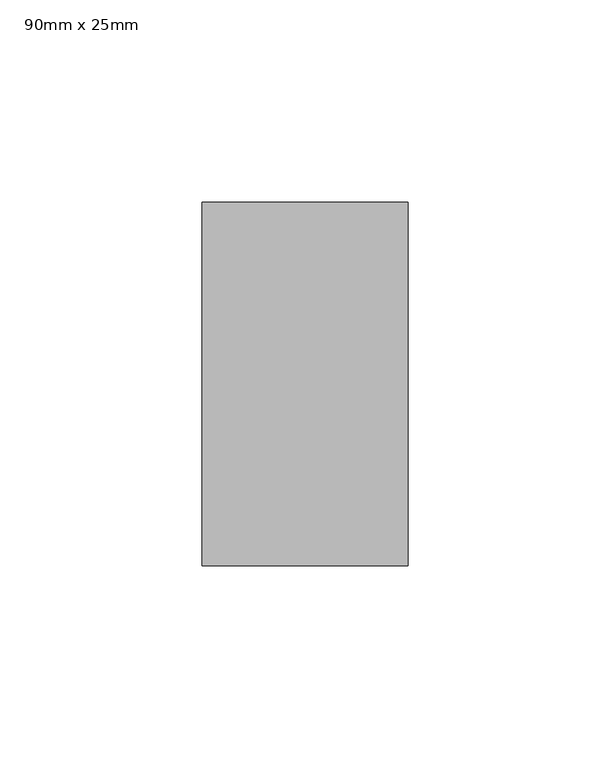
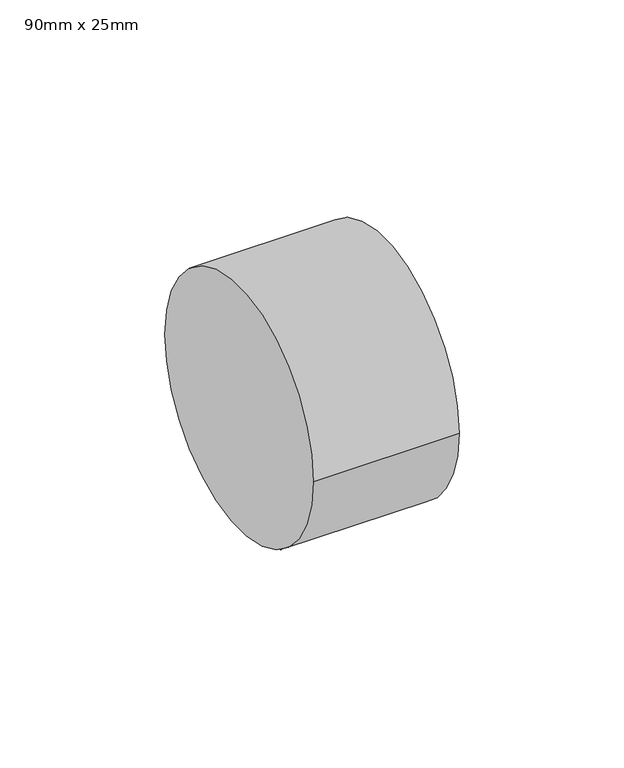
"""IFC4 building model written with IfcOpenShell, lengths in millimetres: pipe fitting geometry, PipeFitting_HTA_CPVC_ConcentricReducingBushes : 90mm x 25mm."""

import ifcopenshell
import ifcopenshell.guid

model = None  # the IFC model being written
_history = None  # IfcOwnerHistory: only IFC2X3 demands one
_inside = {}  # id of a spatial element -> (the spatial element, [elements in it])
_under = {}  # id of a project, library or spatial element -> (it, [spatial elements below it])
_declared = {}  # id of a project -> (the project, [libraries it declares])
_typed = {}  # id of a type object -> (the type object, [elements of that type])
_made_of = {}  # id of a material, layer set ... -> (it, [elements and type objects made of it])


def new_model(schema):
    """Start an empty IFC model of exactly this schema.

    Asked for "IFC4X3", IfcOpenShell would pick the latest addendum, in which some entities
    have other attributes; the version numbers below select the first issue.
    IFC2X3 requires an IfcOwnerHistory on every rooted entity: one is made here for all.
    """
    global model, _history
    if schema == "IFC4X3":
        model = ifcopenshell.file(schema_version=(4, 3, 0, 0))
    else:
        model = ifcopenshell.file(schema=schema)
    _inside.clear()
    _under.clear()
    _declared.clear()
    _typed.clear()
    _made_of.clear()
    _history = None
    if model.schema == "IFC2X3":
        org = make("IfcOrganization", Name="unknown")
        user = make(
            "IfcPersonAndOrganization",
            ThePerson=make("IfcPerson", FamilyName="unknown"),
            TheOrganization=org,
        )
        app = make(
            "IfcApplication",
            ApplicationDeveloper=org,
            Version="unknown",
            ApplicationFullName="unknown",
            ApplicationIdentifier="unknown",
        )
        _history = make(
            "IfcOwnerHistory",
            OwningUser=user,
            OwningApplication=app,
            ChangeAction="ADDED",
            CreationDate=0,
        )
    return model


def make(cls, **values):
    """One entity of the class cls with the attributes given. An attribute that is None is left unset."""
    return model.create_entity(
        cls, **{name: value for name, value in values.items() if value is not None}
    )


def rooted(cls, **values):
    """An entity with a GlobalId (a new one), such as an element, a storey or a relation."""
    return make(cls, GlobalId=ifcopenshell.guid.new(), OwnerHistory=_history, **values)


def si_unit(unit_type, name, prefix=None):
    """IfcSIUnit, for example si_unit("LENGTHUNIT", "METRE", prefix="MILLI")."""
    return make("IfcSIUnit", UnitType=unit_type, Prefix=prefix, Name=name)


def assignment(units):
    """IfcUnitAssignment: the units of a project."""
    return None if units is None else make("IfcUnitAssignment", Units=units)


def point(xyz):
    """IfcCartesianPoint."""
    return None if xyz is None else make("IfcCartesianPoint", Coordinates=xyz)


def direction(xyz):
    """IfcDirection."""
    return None if xyz is None else make("IfcDirection", DirectionRatios=xyz)


def frame(location, z_axis=None, x_axis=None):
    """IfcAxis2Placement3D, a coordinate frame: its origin and axes. An axis left out is left unset."""
    return make(
        "IfcAxis2Placement3D",
        Location=point(location),
        Axis=direction(z_axis),
        RefDirection=direction(x_axis),
    )


def frame_2d(location, x_axis=None):
    """IfcAxis2Placement2D, a coordinate frame in the plane: its origin and x axis."""
    return make(
        "IfcAxis2Placement2D", Location=point(location), RefDirection=direction(x_axis)
    )


def origin():
    """The frame at (0, 0, 0) with its axes left unset."""
    return frame((0.0, 0.0, 0.0))


def origin_2d():
    """The frame at (0, 0) in the plane with its x axis left unset."""
    return frame_2d((0.0, 0.0))


def place(relative_to, where):
    """IfcLocalPlacement: puts the frame where relative to a parent placement (None: the world)."""
    return make(
        "IfcLocalPlacement", PlacementRelTo=relative_to, RelativePlacement=where
    )


def context(
    kind, dimensions, precision=None, world=None, true_north=None, identifier=None
):
    """IfcGeometricRepresentationContext, for example the 3D "Model" context."""
    return make(
        "IfcGeometricRepresentationContext",
        ContextIdentifier=identifier,
        ContextType=kind,
        CoordinateSpaceDimension=dimensions,
        Precision=precision,
        WorldCoordinateSystem=world,
        TrueNorth=true_north,
    )


def project(units=None, contexts=None):
    """IfcProject with its units and contexts."""
    return rooted(
        "IfcProject",
        Name="project",
        RepresentationContexts=contexts,
        UnitsInContext=assignment(units),
    )


def spatial(cls, under=None, at=None, **own):
    """A site, building, storey or space (cls), placed at a placement, below another one or the project."""
    s = rooted(cls, ObjectPlacement=at, **own)
    if under is not None:
        _under.setdefault(under.id(), (under, []))[1].append(s)
    return s


def circle_curve(where, radius):
    """IfcCircle in the frame where."""
    return make("IfcCircle", Position=where, Radius=radius)


def trimmed(basis, trim1, trim2, sense, master):
    """IfcTrimmedCurve: the piece of a basis curve between two trims."""
    return make(
        "IfcTrimmedCurve",
        BasisCurve=basis,
        Trim1=trim1,
        Trim2=trim2,
        SenseAgreement=sense,
        MasterRepresentation=master,
    )


def segment(curve, same_sense, transition):
    """IfcCompositeCurveSegment."""
    return make(
        "IfcCompositeCurveSegment",
        Transition=transition,
        SameSense=same_sense,
        ParentCurve=curve,
    )


def composite_curve(segments, self_intersect=None):
    """IfcCompositeCurve: segments joined end to end."""
    return make("IfcCompositeCurve", Segments=segments, SelfIntersect=self_intersect)


def outline(outer, holes=None, kind="AREA"):
    """IfcArbitraryClosedProfileDef: a profile drawn as a closed curve; with holes, ...WithVoids."""
    if holes is None:
        return make("IfcArbitraryClosedProfileDef", ProfileType=kind, OuterCurve=outer)
    return make(
        "IfcArbitraryProfileDefWithVoids",
        ProfileType=kind,
        OuterCurve=outer,
        InnerCurves=holes,
    )


def extrude(swept, where, along, depth):
    """IfcExtrudedAreaSolid: the profile swept, set in the frame where, extruded along a direction by depth."""
    return make(
        "IfcExtrudedAreaSolid",
        SweptArea=swept,
        Position=where,
        ExtrudedDirection=direction(along),
        Depth=depth,
    )


def shape(context_of_items, identifier, shape_type, items):
    """IfcShapeRepresentation: the items that make up one representation, for example the "Body"."""
    return make(
        "IfcShapeRepresentation",
        ContextOfItems=context_of_items,
        RepresentationIdentifier=identifier,
        RepresentationType=shape_type,
        Items=items,
    )


def source(mapping_origin, context_of_items, identifier, shape_type, items):
    """IfcRepresentationMap: a shape defined once, which mapped items show again and again."""
    return make(
        "IfcRepresentationMap",
        MappingOrigin=mapping_origin,
        MappedRepresentation=shape(context_of_items, identifier, shape_type, items),
    )


def transform(
    local_origin,
    x_axis=None,
    y_axis=None,
    z_axis=None,
    scale=None,
    scale2=None,
    scale3=None,
    uniform=True,
):
    """IfcCartesianTransformationOperator3D, or its non-uniform kind. x_axis, y_axis, z_axis: its Axis1, 2, 3."""
    if uniform:
        return make(
            "IfcCartesianTransformationOperator3D",
            Axis1=direction(x_axis),
            Axis2=direction(y_axis),
            LocalOrigin=point(local_origin),
            Scale=scale,
            Axis3=direction(z_axis),
        )
    return make(
        "IfcCartesianTransformationOperator3DnonUniform",
        Axis1=direction(x_axis),
        Axis2=direction(y_axis),
        LocalOrigin=point(local_origin),
        Scale=scale,
        Axis3=direction(z_axis),
        Scale2=scale2,
        Scale3=scale3,
    )


def mapped(mapping_source, mapping_target):
    """IfcMappedItem: shows the shape of a source again, moved by a transform."""
    return make(
        "IfcMappedItem", MappingSource=mapping_source, MappingTarget=mapping_target
    )


def made_of(thing, what):
    """Note that an element or type object is made of a material, layer set ...; save() writes the relation."""
    if what is not None:
        _made_of.setdefault(what.id(), (what, []))[1].append(thing)
    return thing


def element(
    cls,
    number,
    at=None,
    inside=None,
    cuts=None,
    type_object=None,
    material=None,
    context=None,
    identifier="Body",
    shape_type=None,
    held_by="IfcProductDefinitionShape",
    body=None,
    shapes=None,
    **own,
):
    """One element of the class cls, such as IfcWall. Its Tag is "e" and its number.

    at: its placement. inside: the storey or other place that contains it. cuts: it is an
    opening in that element (IfcRelVoidsElement). A single representation is given by context,
    identifier, shape_type and body (its items); several are given by shapes. held_by: the class
    of the entity that holds the representations. save() writes the other relations.
    """
    e = rooted(cls, Tag="e%d" % number, ObjectPlacement=at, **own)
    if body is not None:
        shapes = [shape(context, identifier, shape_type, body)]
    if shapes is not None:
        e.Representation = make(held_by, Representations=shapes)
    if inside is not None:
        _inside.setdefault(inside.id(), (inside, []))[1].append(e)
    if cuts is not None:
        rooted(
            "IfcRelVoidsElement", RelatingBuildingElement=cuts, RelatedOpeningElement=e
        )
    if type_object is not None:
        _typed.setdefault(type_object.id(), (type_object, []))[1].append(e)
    return made_of(e, material)


def aggregate(whole, parts):
    """IfcRelAggregates: a whole, such as a stair, and the parts it consists of."""
    return rooted("IfcRelAggregates", RelatingObject=whole, RelatedObjects=parts)


def save(model, path):
    """Write the relations noted so far, then the file.

    IfcRelAggregates (storeys below a building ...), IfcRelContainedInSpatialStructure (elements
    in a storey), IfcRelDefinesByType, IfcRelAssociatesMaterial and IfcRelDeclares: one each for
    every whole, place, type object, material and project.
    """
    for whole, parts in _under.values():
        aggregate(whole, parts)
    for where, things in _inside.values():
        rooted(
            "IfcRelContainedInSpatialStructure",
            RelatedElements=things,
            RelatingStructure=where,
        )
    for kind, things in _typed.values():
        rooted("IfcRelDefinesByType", RelatedObjects=things, RelatingType=kind)
    for what, things in _made_of.values():
        rooted("IfcRelAssociatesMaterial", RelatedObjects=things, RelatingMaterial=what)
    for by, libraries in _declared.values():
        rooted("IfcRelDeclares", RelatingContext=by, RelatedDefinitions=libraries)
    model.write(path)


def pipe_fitting_90mm_x_25mm_977c7464(model_context):
    return source(origin(), model_context, "Body", "SweptSolid", [
        extrude(outline(composite_curve([segment(trimmed(circle_curve(origin_2d(), 45.0), [point((-45.0, 0.0))], [point((45.0, 0.0))], False, "CARTESIAN"), True, "CONTINUOUS"), segment(trimmed(circle_curve(origin_2d(), 45.0), [point((45.0, 0.0))], [point((-45.0, 0.0))], False, "CARTESIAN"), True, "CONTINUOUS")], self_intersect=False)), frame((-25.5, 0.0, 0.0), z_axis=(1.0, 0.0, 0.0), x_axis=(0.0, 1.0, 0.0)), (0.0, 0.0, 1.0), 51.0),
    ])


if __name__ == "__main__":
    model = new_model("IFC4")
    model_context = context("Model", 3, world=origin())
    ifc_project = project(units=[si_unit("LENGTHUNIT", "METRE", prefix="MILLI")], contexts=[model_context])
    site = spatial("IfcSite", under=ifc_project)
    building = spatial("IfcBuilding", under=site)
    placement = place(None, origin())
    pipe_fitting_90mm_x_25mm_shape = pipe_fitting_90mm_x_25mm_977c7464(model_context)
    element("IfcPipeFitting", 1, ObjectType="PipeFitting_HTA_CPVC_ConcentricReducingBushes : 90mm x 25mm", at=placement, inside=building, context=model_context, shape_type="MappedRepresentation", body=[
        mapped(pipe_fitting_90mm_x_25mm_shape, transform((0.0, 0.0, 0.0), x_axis=(1.0, 0.0, 0.0), y_axis=(0.0, 1.0, 0.0), z_axis=(0.0, 0.0, 1.0))),
    ])
    save(model, "model.ifc")
